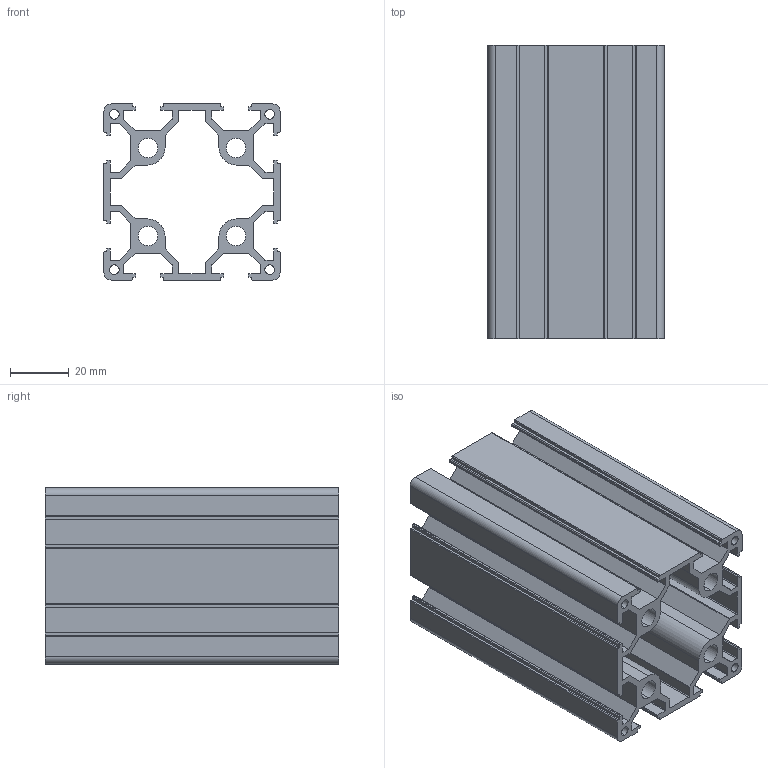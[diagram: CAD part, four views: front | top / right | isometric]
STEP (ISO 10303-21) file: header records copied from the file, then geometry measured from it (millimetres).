
FILE_DESCRIPTION (( 'STEP AP203' ), '1' );
FILE_NAME ('LIMA6060-8.STEP', '2018-10-03T00:53:48', ( '' ), ( '' ), 'SwSTEP 2.0', 'SolidWorks 2017', '' );
FILE_SCHEMA (( 'CONFIG_CONTROL_DESIGN' ));
Length unit declared in the file: millimetre
Products named in the file (1): LIMA6060-8
Bounding box: 60 x 100 x 60 mm (x, y, z)
Volume: 93643.3 mm3; surface area: 80609.7 mm2
Topology: 1 solids, 1 shells, 259 faces, 771 edges, 514 vertices
Faces by surface type: plane 146, cylinder 113
Entity records: 8844 total; most frequent: CARTESIAN_POINT 1545, ORIENTED_EDGE 1542, DIRECTION 1517, EDGE_CURVE 771, LINE 545, VECTOR 545, VERTEX_POINT 514, AXIS2_PLACEMENT_3D 486
